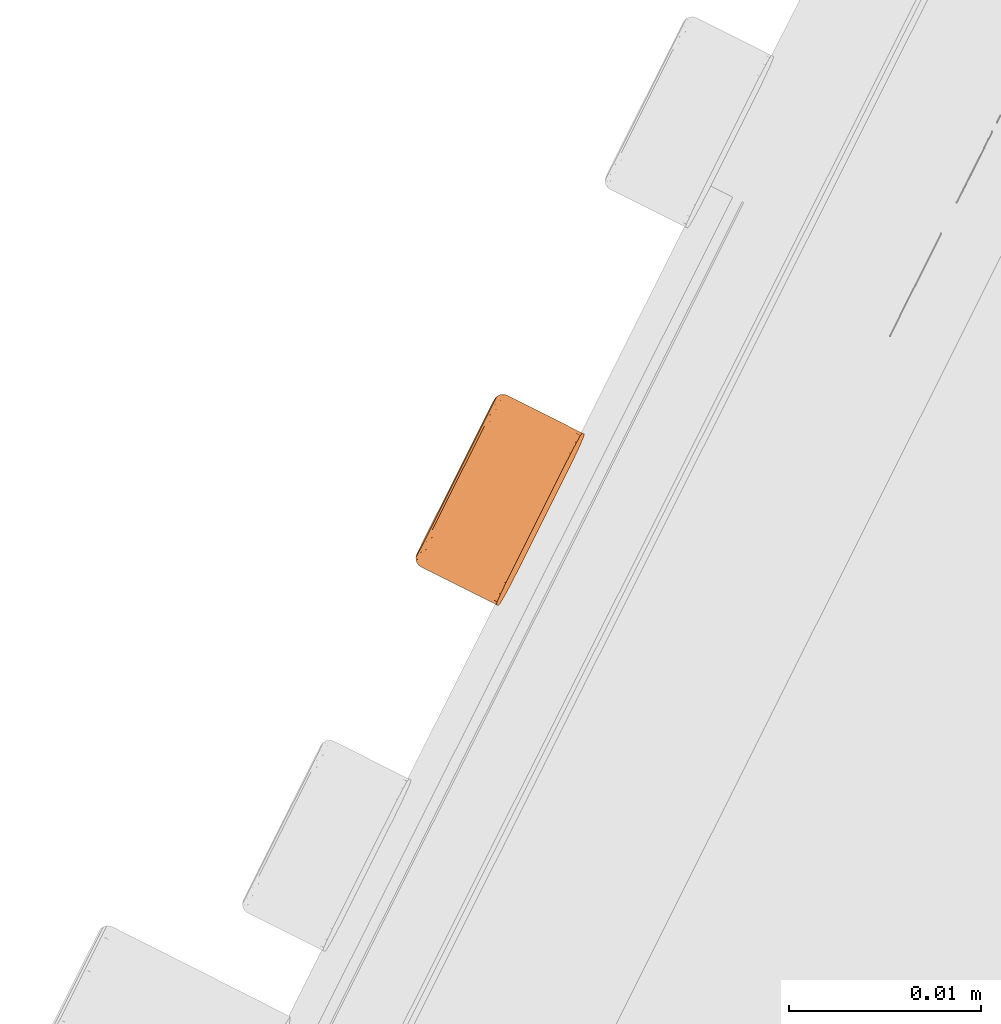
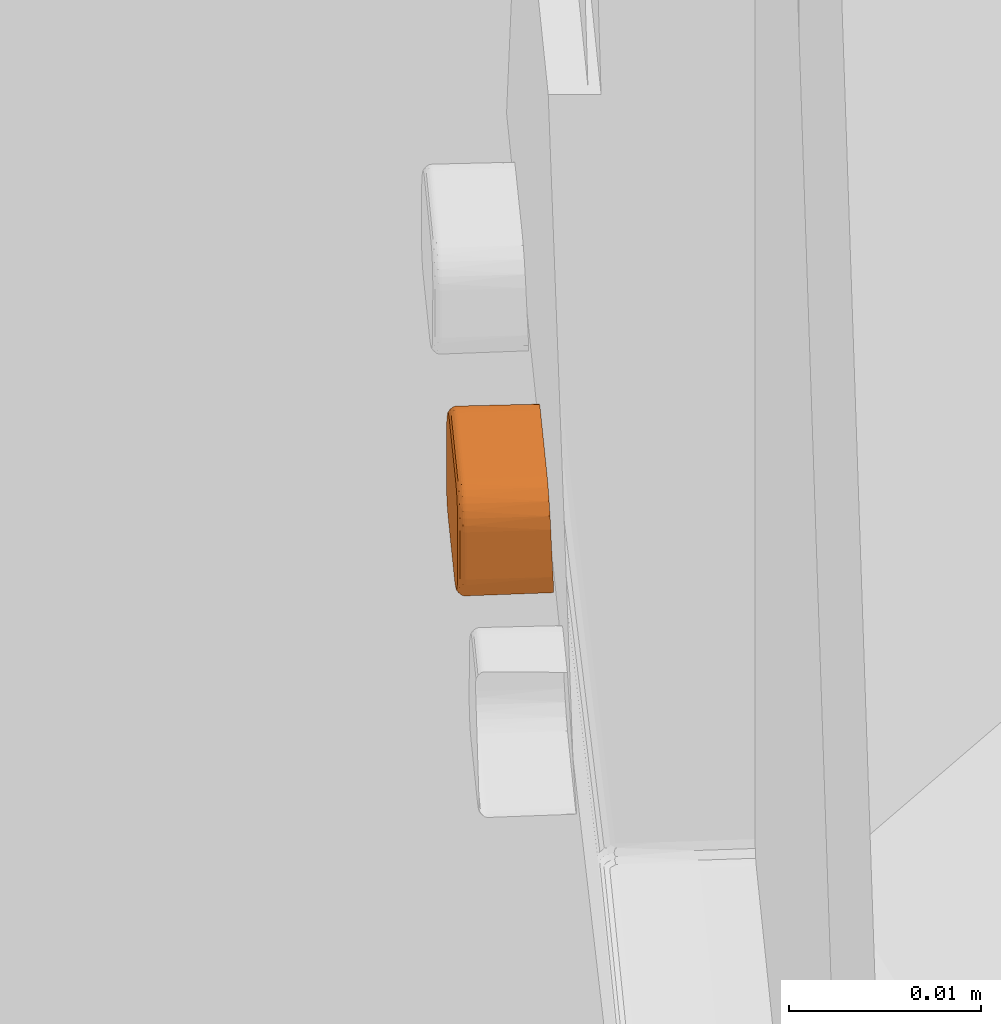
# One storey, part 195 of 206: 1 proxy.
"""IFC2X3 building model written with IfcOpenShell, lengths in metres."""

from ifc_helpers import new_model, si_unit, derived_unit, direction, frame, origin, place, context, subcontext, project, spatial, face_set, surface_model, source, transform, mapped, material, type_object, type_shapes, element, save


model = new_model("IFC2X3")

# Units and contexts
model_context = context("Model", 3, precision=5.2338327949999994e-05, world=origin(), true_north=direction((0.0, 1.0)))
body_context = subcontext(model_context, "Body", "Model", "MODEL_VIEW")
ifc_project = project(units=[si_unit("LENGTHUNIT", "METRE"), si_unit("AREAUNIT", "SQUARE_METRE"), si_unit("VOLUMEUNIT", "CUBIC_METRE"), si_unit("MASSUNIT", "GRAM", prefix="KILO"), si_unit("PLANEANGLEUNIT", "RADIAN"), derived_unit("THERMALTRANSMITTANCEUNIT", [(si_unit("MASSUNIT", "GRAM", prefix="KILO"), 1), (si_unit("THERMODYNAMICTEMPERATUREUNIT", "KELVIN"), -1), (si_unit("TIMEUNIT", "SECOND"), -3)])], contexts=[model_context])

# Site, building, storey
site_placement = place(None, frame((0.0, 0.0, 0.0), z_axis=(0.0, 0.0, 1.0), x_axis=(0.8939966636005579, -0.4480736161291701, 0.0)))
site = spatial("IfcSite", under=ifc_project, at=site_placement, Name="Default", CompositionType="ELEMENT")
building_placement = place(site_placement, origin())
building = spatial("IfcBuilding", under=site, at=building_placement, CompositionType="ELEMENT")
storey_placement = place(building_placement, origin())
storey = spatial("IfcBuildingStorey", under=building, at=storey_placement, Name="Erdgeschoss", CompositionType="ELEMENT", Elevation=0.0)

# Proxy
ifc_material = material(Name="IfcSurfaceStyle #623543")
building_element_proxy_type = type_object("IfcBuildingElementProxyType", Name="BuildingElementProxy 43:BuildingElementProxy 43", PredefinedType="NOTDEFINED", material=ifc_material)
shared_shape = source(origin(), body_context, "Body", "SurfaceModel", [
    surface_model("IfcFaceBasedSurfaceModel", [(21.22327664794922, 4.518929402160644, 0.6701360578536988), (21.223281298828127, 4.518164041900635, 0.669983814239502), (21.223295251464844, 4.517514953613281, 0.6695500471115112), (21.22334408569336, 4.516929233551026, 0.6681357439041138), (21.22334408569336, 4.5269294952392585, 0.6681357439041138), (21.223555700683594, 4.518929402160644, 0.6631348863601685), (21.223527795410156, 4.517515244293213, 0.6637206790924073), (21.223546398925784, 4.518164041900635, 0.6632871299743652), (21.223555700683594, 4.524929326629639, 0.6631348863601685), (21.223546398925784, 4.525694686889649, 0.6632871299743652), (21.223527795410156, 4.526343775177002, 0.663720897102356), (21.223497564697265, 4.526777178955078, 0.6643697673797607), (21.218955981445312, 4.526890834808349, 0.6647626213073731), (21.218953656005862, 4.526777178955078, 0.6643877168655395), (21.218953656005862, 4.52659143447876, 0.6640408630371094), (21.21895133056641, 4.526343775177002, 0.6637391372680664), (21.21895133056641, 4.52603856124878, 0.6634889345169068), (21.218949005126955, 4.525694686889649, 0.6633054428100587), (21.218949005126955, 4.5253179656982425, 0.6631914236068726), (21.218949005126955, 4.524929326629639, 0.6631531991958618), (21.218949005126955, 4.5219295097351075, 0.6631531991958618), (21.218949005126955, 4.518929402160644, 0.6631531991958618), (21.218949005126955, 4.51853872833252, 0.6631917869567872), (21.218949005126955, 4.518163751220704, 0.6633055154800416), (21.21895133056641, 4.517816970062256, 0.6634911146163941), (21.21895133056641, 4.517515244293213, 0.6637389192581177), (21.218953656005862, 4.5172649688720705, 0.6640440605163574), (21.218451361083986, 4.518929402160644, 0.6636552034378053), (21.218451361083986, 4.5219295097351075, 0.6636552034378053), (21.218488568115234, 4.518929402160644, 0.663463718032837), (21.218488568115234, 4.524929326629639, 0.663463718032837), (21.218595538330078, 4.524929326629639, 0.663301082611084), (21.218451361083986, 4.524929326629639, 0.6636552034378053), (21.218595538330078, 4.518929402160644, 0.663301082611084), (21.218758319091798, 4.524929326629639, 0.6631920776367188), (21.218758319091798, 4.518929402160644, 0.6631920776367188), (21.21885133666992, 4.524929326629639, 0.6631632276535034), (21.21885133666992, 4.518929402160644, 0.6631632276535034), (21.218451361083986, 4.52550167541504, 0.663768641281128), (21.218488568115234, 4.525574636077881, 0.6635916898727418), (21.21859786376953, 4.525636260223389, 0.6634411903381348), (21.218758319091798, 4.525310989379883, 0.6632302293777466), (21.218758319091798, 4.5256775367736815, 0.6633409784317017), (21.21885133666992, 4.525688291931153, 0.663314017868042), (21.218758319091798, 4.526017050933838, 0.6635218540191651), (21.218853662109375, 4.526032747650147, 0.6634975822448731), (21.21876064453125, 4.52631499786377, 0.6637658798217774), (21.218853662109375, 4.5263353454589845, 0.663745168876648), (21.218855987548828, 4.526583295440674, 0.6640468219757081), (21.21845368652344, 4.5259891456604, 0.6640936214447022), (21.218490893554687, 4.526124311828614, 0.6639580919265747), (21.21859786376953, 4.52623883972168, 0.6638428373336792), (21.21849321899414, 4.526491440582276, 0.6645068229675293), (21.218600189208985, 4.526641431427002, 0.6644442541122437), (21.21860484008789, 4.526782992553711, 0.6651546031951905), (21.218765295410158, 4.526852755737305, 0.6647705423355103), (21.218765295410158, 4.526891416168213, 0.6651539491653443), (21.21885831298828, 4.526880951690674, 0.6647645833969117), (21.218860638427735, 4.526919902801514, 0.6651535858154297), (21.218958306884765, 4.5269294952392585, 0.6651532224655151), (21.218456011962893, 4.52631499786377, 0.6645804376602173), (21.218495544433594, 4.526620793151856, 0.6651550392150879), (21.218458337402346, 4.526429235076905, 0.6651551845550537), (21.218855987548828, 4.526767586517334, 0.6643912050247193), (21.218762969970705, 4.526740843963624, 0.6644026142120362), (21.21876064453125, 4.52655945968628, 0.66406310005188), (21.21885133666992, 4.525316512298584, 0.663201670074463), (21.21885133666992, 4.5185401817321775, 0.6632021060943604), (21.218758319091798, 4.518545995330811, 0.6632305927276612), (21.21859786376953, 4.518218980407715, 0.6634425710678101), (21.218488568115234, 4.518281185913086, 0.6635929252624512), (21.21859786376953, 4.517617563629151, 0.6638450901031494), (21.218490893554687, 4.517732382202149, 0.6639601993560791), (21.21849321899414, 4.517365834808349, 0.6645099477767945), (21.21845368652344, 4.517867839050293, 0.6640955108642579), (21.218456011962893, 4.517542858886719, 0.6645830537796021), (21.21885133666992, 4.518166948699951, 0.6633154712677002), (21.218758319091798, 4.5181779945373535, 0.663342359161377), (21.21876064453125, 4.517838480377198, 0.6635239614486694), (21.21876064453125, 4.517541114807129, 0.6637682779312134), (21.21876064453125, 4.517297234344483, 0.6640663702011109), (21.218855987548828, 4.517273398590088, 0.664050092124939), (21.218855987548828, 4.517089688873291, 0.6643946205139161), (21.218953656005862, 4.517081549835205, 0.6643878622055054), (21.218853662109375, 4.517822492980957, 0.6634996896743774), (21.218853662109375, 4.517521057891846, 0.663747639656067), (21.21885831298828, 4.516977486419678, 0.6647664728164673), (21.218955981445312, 4.516967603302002, 0.6647645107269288), (21.218860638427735, 4.516939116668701, 0.6651535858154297), (21.218958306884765, 4.516929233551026, 0.6651532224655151), (21.218765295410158, 4.516967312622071, 0.6651539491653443), (21.218765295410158, 4.517005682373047, 0.664772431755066), (21.218762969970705, 4.517116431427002, 0.66440595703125), (21.218600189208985, 4.517215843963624, 0.6644475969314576), (21.21860484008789, 4.517075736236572, 0.6651546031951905), (21.218495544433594, 4.517237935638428, 0.6651550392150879), (21.218458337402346, 4.517429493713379, 0.6651551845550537), (21.218451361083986, 4.518354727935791, 0.6637697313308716), (21.21846298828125, 4.526429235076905, 0.6666551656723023), (21.21850717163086, 4.526620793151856, 0.668155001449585), (21.21861646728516, 4.526782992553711, 0.6681546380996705), (21.21846996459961, 4.526429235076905, 0.6681552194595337), (21.21877692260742, 4.526891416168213, 0.6681539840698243), (21.218872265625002, 4.526919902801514, 0.6681535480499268), (21.218962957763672, 4.5269294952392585, 0.6666532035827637), (21.218969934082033, 4.5269294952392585, 0.6681531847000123), (21.218962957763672, 4.516929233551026, 0.6666532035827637), (21.218872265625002, 4.516939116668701, 0.6681535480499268), (21.21877692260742, 4.516967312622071, 0.6681539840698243), (21.218969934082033, 4.516929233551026, 0.6681531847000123), (21.21861646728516, 4.517075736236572, 0.6681546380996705), (21.21850717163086, 4.517237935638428, 0.668155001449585), (21.21846298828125, 4.517429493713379, 0.6666551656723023), (21.21846996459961, 4.517429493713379, 0.6681552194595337), (21.218472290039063, 4.526315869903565, 0.6687273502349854), (21.218509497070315, 4.526492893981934, 0.6688001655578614), (21.21861879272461, 4.526642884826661, 0.6688616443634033), (21.218779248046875, 4.526853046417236, 0.6685355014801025), (21.21878157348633, 4.526742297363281, 0.6689019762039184), (21.218874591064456, 4.526769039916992, 0.6689125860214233), (21.21878157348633, 4.526561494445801, 0.6692415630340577), (21.21887691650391, 4.526585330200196, 0.6692571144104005), (21.218783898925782, 4.526317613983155, 0.6695396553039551), (21.21887691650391, 4.526337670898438, 0.6695595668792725), (21.21887924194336, 4.526036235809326, 0.669807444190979), (21.21897458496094, 4.526343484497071, 0.6695674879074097), (21.218976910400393, 4.526041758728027, 0.6698152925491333), (21.218472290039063, 4.52599088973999, 0.6692148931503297), (21.218511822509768, 4.526126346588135, 0.6693499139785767), (21.218621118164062, 4.526241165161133, 0.6694640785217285), (21.218514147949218, 4.525577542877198, 0.6697171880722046), (21.218623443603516, 4.525639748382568, 0.6698666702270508), (21.218623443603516, 4.524929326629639, 0.6700081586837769), (21.218786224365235, 4.525312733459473, 0.6700773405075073), (21.218786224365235, 4.524929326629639, 0.6701158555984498), (21.21887924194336, 4.525318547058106, 0.670105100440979), (21.21887924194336, 4.524929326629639, 0.670143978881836), (21.218976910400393, 4.525320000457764, 0.6701146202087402), (21.218976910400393, 4.524929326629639, 0.6701532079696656), (21.218474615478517, 4.525504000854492, 0.6695406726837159), (21.218514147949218, 4.524929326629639, 0.6698463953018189), (21.218474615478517, 4.524929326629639, 0.6696552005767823), (21.218976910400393, 4.5256949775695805, 0.6700008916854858), (21.21887924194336, 4.525691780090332, 0.6699916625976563), (21.218786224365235, 4.52568073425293, 0.6699655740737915), (21.218783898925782, 4.5260202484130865, 0.6697839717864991), (21.21897458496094, 4.526593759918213, 0.66926234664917), (21.218972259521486, 4.526777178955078, 0.668918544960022), (21.218872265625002, 4.526881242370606, 0.6685406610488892), (21.218969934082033, 4.526891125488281, 0.6685418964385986), (21.218969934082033, 4.516967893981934, 0.6685438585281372), (21.218872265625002, 4.516977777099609, 0.6685426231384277), (21.218779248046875, 4.517005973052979, 0.6685373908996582), (21.21861879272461, 4.517217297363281, 0.6688649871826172), (21.218509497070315, 4.517367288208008, 0.6688032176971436), (21.218621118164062, 4.5176198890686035, 0.6694664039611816), (21.218511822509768, 4.51773441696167, 0.6693519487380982), (21.218514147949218, 4.518284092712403, 0.6697184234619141), (21.218472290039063, 4.517869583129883, 0.6692167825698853), (21.218474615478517, 4.518357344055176, 0.6695417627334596), (21.218972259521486, 4.517081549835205, 0.6689186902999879), (21.218874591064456, 4.51709114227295, 0.6689159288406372), (21.21878157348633, 4.517117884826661, 0.6689053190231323), (21.21878157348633, 4.517299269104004, 0.6692448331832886), (21.218783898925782, 4.517543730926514, 0.6695420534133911), (21.218783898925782, 4.517841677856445, 0.6697860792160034), (21.21887924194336, 4.517825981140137, 0.6698096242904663), (21.21887924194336, 4.518170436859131, 0.6699931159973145), (21.218976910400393, 4.518164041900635, 0.6700009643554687), (21.21897458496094, 4.517267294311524, 0.669265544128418), (21.21887691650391, 4.517275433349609, 0.6692603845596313), (21.21897458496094, 4.517514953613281, 0.669567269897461), (21.21887691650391, 4.517523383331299, 0.6695620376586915), (21.218976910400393, 4.517820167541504, 0.6698174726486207), (21.21887924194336, 4.518542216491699, 0.6701055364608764), (21.218976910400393, 4.518540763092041, 0.6701149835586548), (21.21887924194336, 4.518929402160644, 0.670143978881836), (21.218976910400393, 4.518929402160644, 0.6701532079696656), (21.218786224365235, 4.518929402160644, 0.6701158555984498), (21.218786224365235, 4.5185477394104, 0.6700777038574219), (21.218786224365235, 4.518181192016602, 0.6699669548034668), (21.218623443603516, 4.518222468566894, 0.6698679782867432), (21.218623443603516, 4.518929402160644, 0.6700081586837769), (21.218514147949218, 4.518929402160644, 0.6698463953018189), (21.218474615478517, 4.518929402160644, 0.6696552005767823), (21.218472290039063, 4.517543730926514, 0.6687299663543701), (21.218474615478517, 4.521214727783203, 0.6696552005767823), (21.218976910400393, 4.521214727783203, 0.6701532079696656), (21.223295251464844, 4.517514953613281, 0.6695500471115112), (21.223295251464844, 4.526343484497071, 0.6695503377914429), (21.22331618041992, 4.526777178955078, 0.6689012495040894), (21.22331618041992, 4.517081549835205, 0.6689012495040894), (21.22346268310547, 4.516929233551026, 0.6651352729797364), (21.22346268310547, 4.5269294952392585, 0.6651352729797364), (21.223420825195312, 4.516929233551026, 0.666135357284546), (21.223420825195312, 4.5269294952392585, 0.666135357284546), (21.22338129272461, 4.516929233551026, 0.6671355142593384), (21.22338129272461, 4.5269294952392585, 0.6671355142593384), (21.22327664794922, 4.524929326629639, 0.6701360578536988), (21.223497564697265, 4.517081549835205, 0.6643697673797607), (21.223281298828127, 4.525694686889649, 0.669983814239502)], [face_set([[[0, 1, 2]], [[3, 4, 0]], [[5, 6, 7]], [[8, 9, 10]], [[8, 10, 11]], [[12, 11, 13]], [[14, 13, 11]], [[11, 10, 14]], [[14, 10, 15]], [[15, 10, 16]], [[16, 10, 9]], [[16, 9, 17]], [[18, 17, 9]], [[18, 9, 8]], [[18, 8, 19]], [[19, 8, 20]], [[20, 8, 5]], [[20, 5, 21]], [[22, 21, 5]], [[22, 5, 7]], [[22, 7, 23]], [[24, 23, 7]], [[7, 6, 24]], [[24, 6, 25]], [[25, 6, 26]], [[27, 28, 29]], [[29, 28, 30]], [[29, 30, 31]], [[28, 32, 30]], [[29, 31, 33]], [[33, 31, 34]], [[33, 34, 35]], [[35, 34, 36]], [[35, 36, 37]], [[37, 36, 20]], [[37, 20, 21]], [[36, 19, 20]], [[30, 32, 38]], [[30, 38, 39]], [[31, 30, 39]], [[31, 39, 40]], [[31, 40, 41]], [[41, 40, 42]], [[41, 42, 43]], [[43, 42, 44]], [[43, 44, 45]], [[45, 44, 46]], [[45, 46, 47]], [[46, 48, 47]], [[47, 48, 15]], [[15, 48, 14]], [[39, 38, 49]], [[39, 49, 50]], [[39, 50, 51]], [[51, 50, 52]], [[51, 52, 53]], [[53, 52, 54]], [[53, 54, 55]], [[55, 54, 56]], [[57, 55, 56]], [[57, 56, 58]], [[12, 57, 58]], [[12, 58, 59]], [[50, 49, 52]], [[52, 49, 60]], [[52, 60, 61]], [[61, 60, 62]], [[52, 61, 54]], [[12, 13, 57]], [[57, 13, 63]], [[57, 63, 55]], [[55, 63, 64]], [[55, 64, 53]], [[53, 64, 65]], [[53, 65, 51]], [[51, 65, 46]], [[51, 46, 44]], [[13, 14, 63]], [[63, 14, 48]], [[63, 48, 65]], [[48, 46, 65]], [[15, 16, 47]], [[47, 16, 45]], [[16, 17, 45]], [[45, 17, 43]], [[17, 66, 43]], [[43, 66, 41]], [[66, 34, 41]], [[41, 34, 31]], [[17, 18, 66]], [[18, 36, 66]], [[66, 36, 34]], [[18, 19, 36]], [[39, 51, 40]], [[40, 51, 44]], [[40, 44, 42]], [[63, 65, 64]], [[21, 22, 37]], [[37, 22, 67]], [[37, 67, 35]], [[35, 67, 68]], [[35, 68, 33]], [[33, 68, 69]], [[33, 69, 70]], [[70, 69, 71]], [[70, 71, 72]], [[73, 72, 71]], [[72, 73, 74]], [[74, 73, 75]], [[22, 23, 67]], [[67, 23, 76]], [[67, 76, 68]], [[68, 76, 77]], [[68, 77, 69]], [[69, 77, 78]], [[69, 78, 71]], [[71, 78, 79]], [[71, 79, 80]], [[81, 80, 79]], [[81, 82, 80]], [[82, 81, 83]], [[23, 24, 76]], [[76, 24, 84]], [[76, 84, 78]], [[84, 79, 78]], [[24, 25, 84]], [[84, 25, 85]], [[84, 85, 79]], [[85, 81, 79]], [[25, 26, 85]], [[85, 26, 81]], [[26, 83, 81]], [[83, 86, 82]], [[86, 83, 87]], [[87, 88, 86]], [[88, 87, 89]], [[90, 86, 88]], [[86, 90, 91]], [[91, 82, 86]], [[82, 91, 92]], [[82, 92, 80]], [[80, 92, 93]], [[71, 80, 93]], [[71, 93, 73]], [[90, 94, 91]], [[93, 91, 94]], [[91, 93, 92]], [[93, 94, 73]], [[73, 94, 95]], [[73, 95, 75]], [[75, 95, 96]], [[72, 74, 70]], [[70, 74, 97]], [[70, 97, 29]], [[29, 97, 27]], [[70, 29, 33]], [[76, 78, 77]], [[61, 62, 98]], [[61, 98, 99]], [[61, 99, 100]], [[98, 101, 99]], [[61, 100, 54]], [[54, 100, 102]], [[54, 102, 56]], [[56, 102, 103]], [[56, 103, 58]], [[58, 103, 104]], [[58, 104, 59]], [[105, 104, 103]], [[88, 89, 106]], [[88, 106, 107]], [[88, 107, 108]], [[106, 109, 107]], [[88, 108, 90]], [[90, 108, 110]], [[90, 110, 94]], [[94, 110, 111]], [[94, 111, 95]], [[95, 111, 112]], [[95, 112, 96]], [[111, 113, 112]], [[99, 101, 114]], [[99, 114, 115]], [[100, 99, 115]], [[100, 115, 116]], [[100, 116, 117]], [[117, 116, 118]], [[117, 118, 119]], [[119, 118, 120]], [[119, 120, 121]], [[121, 120, 122]], [[121, 122, 123]], [[122, 124, 123]], [[123, 124, 125]], [[125, 124, 126]], [[115, 114, 127]], [[115, 127, 128]], [[115, 128, 129]], [[129, 128, 130]], [[129, 130, 131]], [[131, 130, 132]], [[131, 132, 133]], [[133, 132, 134]], [[135, 133, 134]], [[135, 134, 136]], [[137, 135, 136]], [[137, 136, 138]], [[128, 127, 130]], [[130, 127, 139]], [[130, 139, 140]], [[140, 139, 141]], [[130, 140, 132]], [[137, 142, 135]], [[135, 142, 143]], [[135, 143, 133]], [[133, 143, 144]], [[133, 144, 131]], [[131, 144, 145]], [[131, 145, 129]], [[129, 145, 122]], [[129, 122, 120]], [[142, 126, 143]], [[143, 126, 124]], [[143, 124, 145]], [[124, 122, 145]], [[125, 146, 123]], [[123, 146, 121]], [[146, 147, 121]], [[121, 147, 119]], [[147, 148, 119]], [[119, 148, 117]], [[148, 102, 117]], [[117, 102, 100]], [[147, 149, 148]], [[149, 103, 148]], [[148, 103, 102]], [[149, 105, 103]], [[115, 129, 116]], [[116, 129, 120]], [[116, 120, 118]], [[143, 145, 144]], [[109, 150, 107]], [[107, 150, 151]], [[107, 151, 108]], [[108, 151, 152]], [[108, 152, 110]], [[110, 152, 153]], [[110, 153, 154]], [[154, 153, 155]], [[154, 155, 156]], [[157, 156, 155]], [[156, 157, 158]], [[158, 157, 159]], [[150, 160, 151]], [[151, 160, 161]], [[151, 161, 152]], [[152, 161, 162]], [[152, 162, 153]], [[153, 162, 163]], [[153, 163, 155]], [[155, 163, 164]], [[155, 164, 165]], [[166, 165, 164]], [[166, 167, 165]], [[167, 166, 168]], [[160, 169, 161]], [[161, 169, 170]], [[161, 170, 163]], [[170, 164, 163]], [[169, 171, 170]], [[170, 171, 172]], [[170, 172, 164]], [[172, 166, 164]], [[171, 173, 172]], [[172, 173, 166]], [[173, 168, 166]], [[168, 174, 167]], [[174, 168, 175]], [[175, 176, 174]], [[176, 175, 177]], [[178, 174, 176]], [[174, 178, 179]], [[179, 167, 174]], [[167, 179, 180]], [[167, 180, 165]], [[165, 180, 181]], [[155, 165, 181]], [[155, 181, 157]], [[178, 182, 179]], [[181, 179, 182]], [[179, 181, 180]], [[181, 182, 157]], [[157, 182, 183]], [[157, 183, 159]], [[159, 183, 184]], [[156, 158, 154]], [[154, 158, 185]], [[154, 185, 111]], [[111, 185, 113]], [[154, 111, 110]], [[161, 163, 162]], [[141, 186, 140]], [[140, 186, 183]], [[140, 183, 182]], [[186, 184, 183]], [[140, 182, 132]], [[132, 182, 178]], [[132, 178, 134]], [[134, 178, 176]], [[134, 176, 136]], [[136, 176, 187]], [[136, 187, 138]], [[176, 177, 187]], [[150, 109, 3]], [[169, 188, 171]], [[171, 188, 173]], [[173, 188, 1]], [[173, 1, 168]], [[175, 168, 1]], [[175, 1, 0]], [[175, 0, 177]], [[112, 113, 184]], [[112, 184, 186]], [[112, 186, 28]], [[28, 186, 98]], [[28, 98, 32]], [[32, 98, 62]], [[32, 62, 60]], [[28, 27, 112]], [[112, 27, 96]], [[27, 97, 96]], [[96, 97, 74]], [[96, 74, 75]], [[113, 185, 184]], [[184, 185, 158]], [[184, 158, 159]], [[186, 141, 98]], [[98, 141, 101]], [[141, 139, 101]], [[101, 139, 127]], [[101, 127, 114]], [[60, 49, 32]], [[32, 49, 38]], [[126, 189, 125]], [[125, 189, 146]], [[146, 189, 190]], [[146, 190, 147]], [[149, 147, 190]], [[149, 190, 4]], [[149, 4, 105]], [[177, 0, 187]], [[0, 188, 191]], [[0, 191, 3]], [[192, 5, 8]], [[192, 8, 193]], [[194, 192, 193]], [[194, 193, 195]], [[194, 195, 196]], [[196, 195, 197]], [[3, 196, 197]], [[3, 197, 4]], [[0, 4, 198]], [[192, 199, 5]], [[5, 199, 6]], [[8, 11, 193]], [[4, 190, 198]], [[198, 190, 189]], [[198, 189, 200]], [[59, 193, 12]], [[12, 193, 11]], [[26, 6, 199]], [[26, 199, 83]], [[87, 83, 199]], [[87, 199, 192]], [[87, 192, 89]], [[192, 194, 89]], [[89, 194, 106]], [[194, 196, 106]], [[106, 196, 109]], [[196, 3, 109]], [[150, 3, 191]], [[150, 191, 160]], [[169, 160, 191]], [[191, 188, 169]], [[105, 4, 197]], [[105, 197, 104]], [[197, 195, 104]], [[104, 195, 59]], [[195, 193, 59]], [[137, 138, 198]], [[137, 198, 200]], [[137, 200, 142]], [[126, 142, 200]], [[200, 189, 126]], [[187, 0, 198]], [[187, 198, 138]]])]),
])
type_shapes(building_element_proxy_type, [shared_shape])
proxy_placement = place(storey_placement, origin())
element("IfcBuildingElementProxy", 1, at=proxy_placement, inside=storey, type_object=building_element_proxy_type, material=ifc_material, Name="BuildingElementProxy 43", context=body_context, shape_type="MappedRepresentation", body=[
    mapped(shared_shape, transform((0.0, 0.0, 0.0), scale=1.0)),
])

save(model, "model.ifc")
